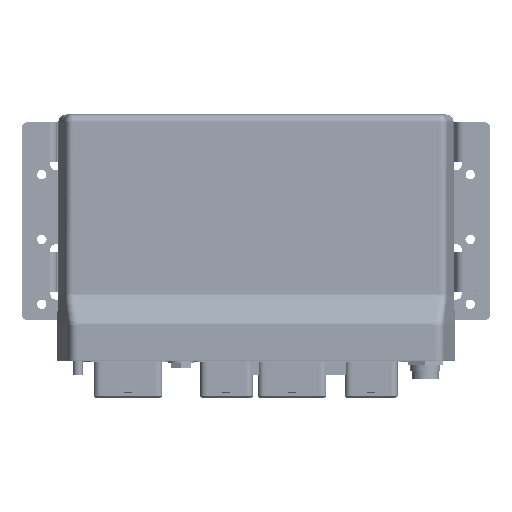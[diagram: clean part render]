
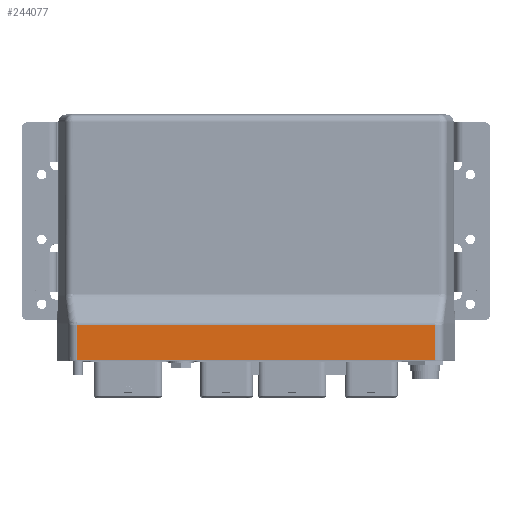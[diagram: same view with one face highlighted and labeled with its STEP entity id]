
A CAD part, top view. The second image highlights one B-rep face of the part: STEP entity #244077.
In plain terms, the highlighted planar face has unit normal (0, 0, 1).
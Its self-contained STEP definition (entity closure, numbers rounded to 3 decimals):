
#11384=FACE_OUTER_BOUND('',#24773,.T.);
#24773=EDGE_LOOP('',(#160913,#160914,#160915,#160916));
#39266=LINE('',#347868,#69222);
#39347=LINE('',#350443,#69303);
#39370=LINE('',#350523,#69326);
#39371=LINE('',#350525,#69327);
#69222=VECTOR('',#277761,1.);
#69303=VECTOR('',#278070,10.);
#69326=VECTOR('',#278171,1.);
#69327=VECTOR('',#278174,1.);
#99145=VERTEX_POINT('',#347853);
#99149=VERTEX_POINT('',#347865);
#99251=VERTEX_POINT('',#350120);
#99253=VERTEX_POINT('',#350289);
#123422=EDGE_CURVE('',#99149,#99145,#39266,.F.);
#123596=EDGE_CURVE('',#99253,#99251,#39347,.T.);
#123637=EDGE_CURVE('',#99253,#99149,#39370,.T.);
#123638=EDGE_CURVE('',#99251,#99145,#39371,.T.);
#160913=ORIENTED_EDGE('',*,*,#123637,.F.);
#160914=ORIENTED_EDGE('',*,*,#123596,.T.);
#160915=ORIENTED_EDGE('',*,*,#123638,.T.);
#160916=ORIENTED_EDGE('',*,*,#123422,.F.);
#233756=PLANE('',#257605);
#244077=ADVANCED_FACE('',(#11384),#233756,.F.);
#257605=AXIS2_PLACEMENT_3D('',#350524,#278172,#278173);
#277761=DIRECTION('',(1.,0.,0.));
#278070=DIRECTION('',(-1.,0.,0.));
#278171=DIRECTION('',(0.,-1.,0.));
#278172=DIRECTION('center_axis',(0.,0.,-1.));
#278173=DIRECTION('ref_axis',(-1.,0.,0.));
#278174=DIRECTION('',(0.,-1.,0.));
#347853=CARTESIAN_POINT('',(-141.777,45.351,23.05));
#347865=CARTESIAN_POINT('',(84.269,45.351,23.05));
#347868=CARTESIAN_POINT('',(-141.777,45.351,23.05));
#350120=CARTESIAN_POINT('',(-141.777,67.608,23.05));
#350289=CARTESIAN_POINT('',(84.269,67.608,23.05));
#350443=CARTESIAN_POINT('',(84.269,67.608,23.05));
#350523=CARTESIAN_POINT('',(84.269,68.751,23.05));
#350524=CARTESIAN_POINT('Origin',(-141.777,68.751,23.05));
#350525=CARTESIAN_POINT('',(-141.777,68.751,23.05));
